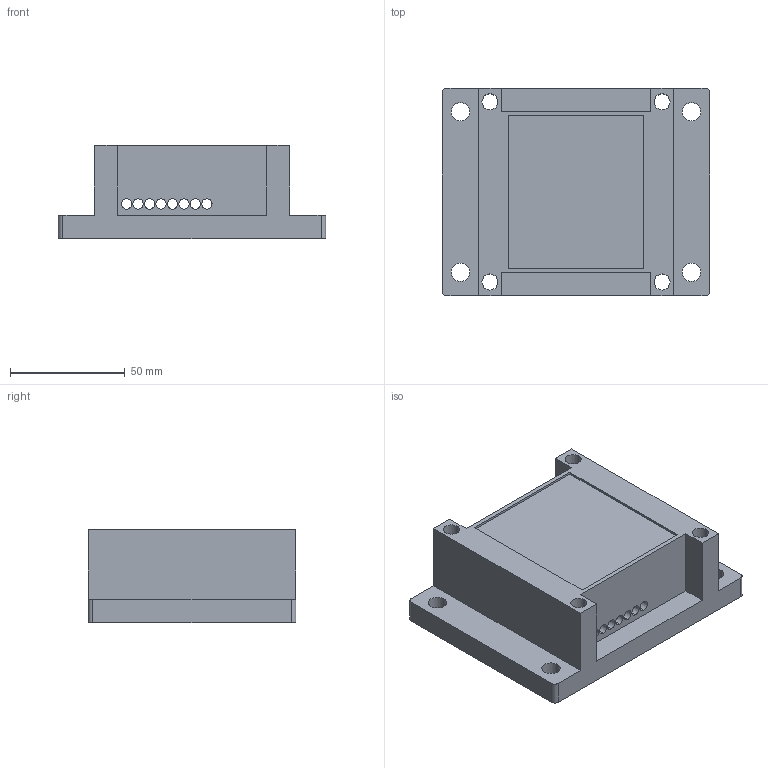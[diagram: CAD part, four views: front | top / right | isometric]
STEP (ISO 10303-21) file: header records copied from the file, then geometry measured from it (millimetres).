
FILE_DESCRIPTION (( 'STEP AP214' ), '1' );
FILE_NAME ('諷秶ん.STEP', '2025-08-22T05:31:24', ( 'Windows User' ), ( 'P R C' ), 'SwSTEP 2.0', 'SolidWorks 2023', '' );
FILE_SCHEMA (( 'AUTOMOTIVE_DESIGN' ));
Length unit declared in the file: millimetre
Products named in the file (1): 控制器
Bounding box: 116.5 x 90.5 x 40.6 mm (x, y, z)
Volume: 280249.3 mm3; surface area: 48998.5 mm2
Topology: 1 solids, 1 shells, 59 faces, 168 edges, 112 vertices
Faces by surface type: cylinder 36, plane 23
Entity records: 2041 total; most frequent: DIRECTION 360, CARTESIAN_POINT 340, ORIENTED_EDGE 336, EDGE_CURVE 168, AXIS2_PLACEMENT_3D 132, VERTEX_POINT 112, VECTOR 96, LINE 96
